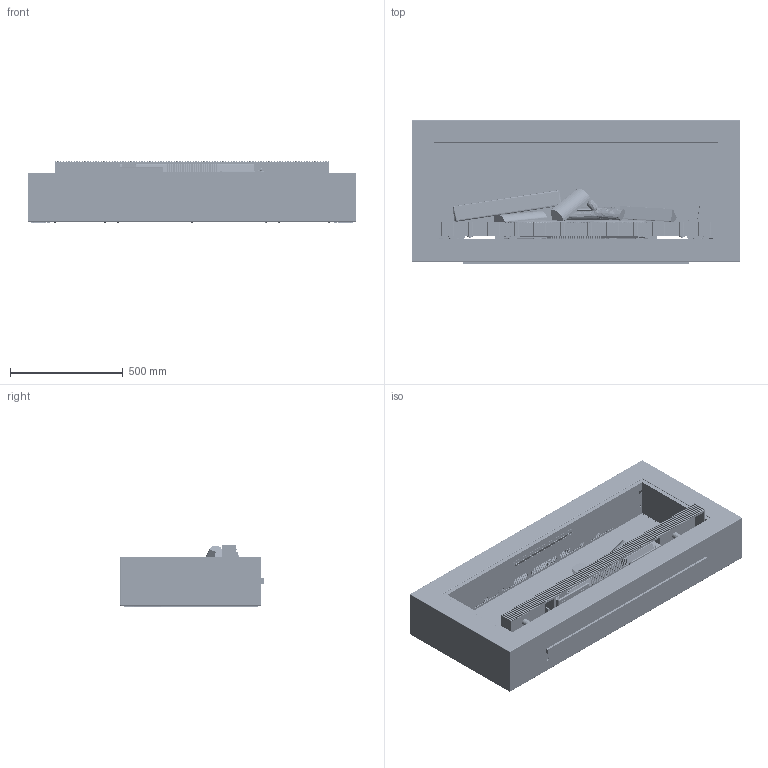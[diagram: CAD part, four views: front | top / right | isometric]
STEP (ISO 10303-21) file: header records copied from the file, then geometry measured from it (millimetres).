
FILE_DESCRIPTION (( 'STEP AP203' ), '1' );
FILE_NAME ('E Series E55 Design Frame with LED.STEP', '2024-03-12T10:01:54', ( '' ), ( '' ), 'SwSTEP 2.0', 'SolidWorks 2020', '' );
FILE_SCHEMA (( 'CONFIG_CONTROL_DESIGN' ));
Length unit declared in the file: millimetre
Products named in the file (88): KF04060; KF06086; KF06368; KF05902; KF05850_Inschijner; KF06550; KF06351; KF06679; KF05919; KF06124; KF06357; KF05869; KF06109; KF06364; KF05836; KF06370; KF05976; KF05962_Hand set bends; KF06683_Built in; KF06335; KF06085; KF06350; KF05853; KF05845; KF06111; KF05917_Built in; KF06215; KF04079; KF04021; KF06605; KF06083_Built in version; KF05900; KF06355; KF06572; KF06545; KF05834_KALFIRE E55 ; KF05852; KF06555; KF04221; KF05909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
Assembly tree (225 placements, depth 7):
  E Series E55 Design Frame with LED
    KF05834_KALFIRE E55 
      KF05850_Inschijner
        KF05976
        KF06110
          KF05853
          KF06109
        KF06111
          KF05852
          KF06109
        KF06679  x2
      KF05836
      KF06215
        KF06362
          KF05846  x2
            KF05847
            KF06057
            KF04020
            KF06545
          KF05912
            KF05904
            KF04020  x9
          KF05903
          KF05919
            KF05902
            KF04020  x3
            KF04060  x4
          KF05910
            KF05901
            KF04079  x2
            KF04020  x3
          KF05909
            KF05900
            KF04079  x2
            KF04020  x3
          KF05917_Built in
            KF05848_Built in 
            KF04020  x2
            KF04003  x4
          KF06368
            KF06364
          KF06370
            KF06369
            KF04020
          KF06125
          KF06124
          KF06681
            KF06683_Built in
            KF06684_Built in
            KF06717_Left - Bend 
            KF06717_Right - Bend
        KF06459
          KF06550
            KF06083_Built in version
              KF05962_Hand set bends
              KF04020  x2
            KF05964
              KF05961
              KF04221  x10
              KF04003  x5
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Bounding box: 1458 x 637.5 x 277.5 mm (x, y, z)
Volume: 48440345.5 mm3; surface area: 12853881.4 mm2
Topology: 217 solids, 266 shells, 13990 faces, 35287 edges, 22104 vertices
Faces by surface type: plane 8531, cylinder 3673, cone 1296, bspline 265, torus 151, sphere 74
Entity records: 312678 total; most frequent: CARTESIAN_POINT 73303, ORIENTED_EDGE 47210, DIRECTION 46806, EDGE_CURVE 23605, LINE 16886, VECTOR 16886, AXIS2_PLACEMENT_3D 14960, VERTEX_POINT 14710
